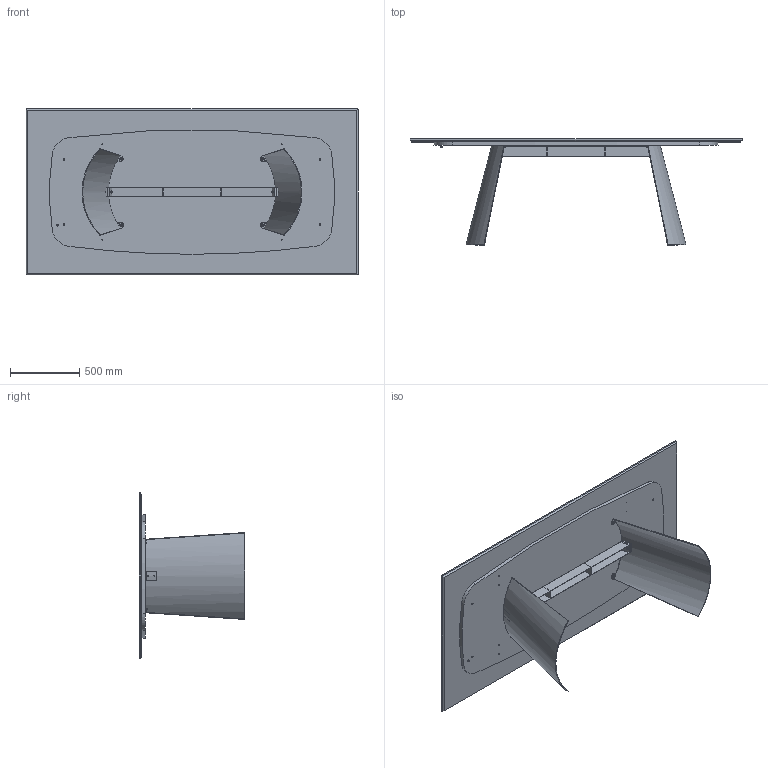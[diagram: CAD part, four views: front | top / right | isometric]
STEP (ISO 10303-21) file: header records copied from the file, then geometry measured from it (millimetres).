
FILE_DESCRIPTION (( 'STEP AP203' ), '1' );
FILE_NAME ('DN23M.STEP', '2024-08-07T15:07:52', ( '' ), ( '' ), 'SwSTEP 2.0', 'SolidWorks 2022', '' );
FILE_SCHEMA (( 'CONFIG_CONTROL_DESIGN' ));
Length unit declared in the file: millimetre
Products named in the file (15): DN23M; TRUXXXXXX-00-NOBILITATO GR CON SUPP TRUCIOLARE SP. 25_TRU00007_2100x900; rondella M8_8X16; DNB300000_02-02-RISCONTRO STANGONE CENTRALE; SDNB300000-02-GAMBA X TRASP; M2X-00-Piani rettangolari marmo_2400*1200; feltro Ø12x3; GRANO M8X35_barra; DNBX00000-01-DORIAN TRAVERSO LXXXX PER TAVOLO LX00_L.1250; nut_M8_M8; DNB300000_03-02-PIASTRINA; M2XMXX-00-Piani rettangolari in marmo_2400x1200; CMP000000N001-01-PIASTRINA SUPPORTO CRISTALLO; DNB300000_01-02-GAMBA DORIAN; DNB400000-02-ASSIEME STRUTTURA COMPLETA_L.1250
Assembly tree (34 placements, depth 4):
  DN23M
    M2XMXX-00-Piani rettangolari in marmo_2400x1200
      M2X-00-Piani rettangolari marmo_2400*1200
      TRUXXXXXX-00-NOBILITATO GR CON SUPP TRUCIOLARE SP. 25_TRU00007_2100x900
    DNB400000-02-ASSIEME STRUTTURA COMPLETA_L.1250
      SDNB300000-02-GAMBA X TRASP  x2
        DNB300000_01-02-GAMBA DORIAN
        DNB300000_02-02-RISCONTRO STANGONE CENTRALE
        DNB300000_03-02-PIASTRINA
      DNBX00000-01-DORIAN TRAVERSO LXXXX PER TAVOLO LX00_L.1250
    CMP000000N001-01-PIASTRINA SUPPORTO CRISTALLO  x3
    nut_M8_M8  x8
    GRANO M8X35_barra  x4
    rondella M8_8X16  x4
    feltro Ø12x3  x4
Bounding box: 2400 x 765 x 1200 mm (x, y, z)
Volume: 106039919.8 mm3; surface area: 11990365.9 mm2
Topology: 38 solids, 38 shells, 633 faces, 1515 edges, 942 vertices
Faces by surface type: plane 246, cylinder 199, cone 138, torus 32, bspline 18
Entity records: 12787 total; most frequent: CARTESIAN_POINT 2463, DIRECTION 1762, ORIENTED_EDGE 1642, EDGE_CURVE 821, AXIS2_PLACEMENT_3D 635, VERTEX_POINT 532, LINE 492, VECTOR 492
